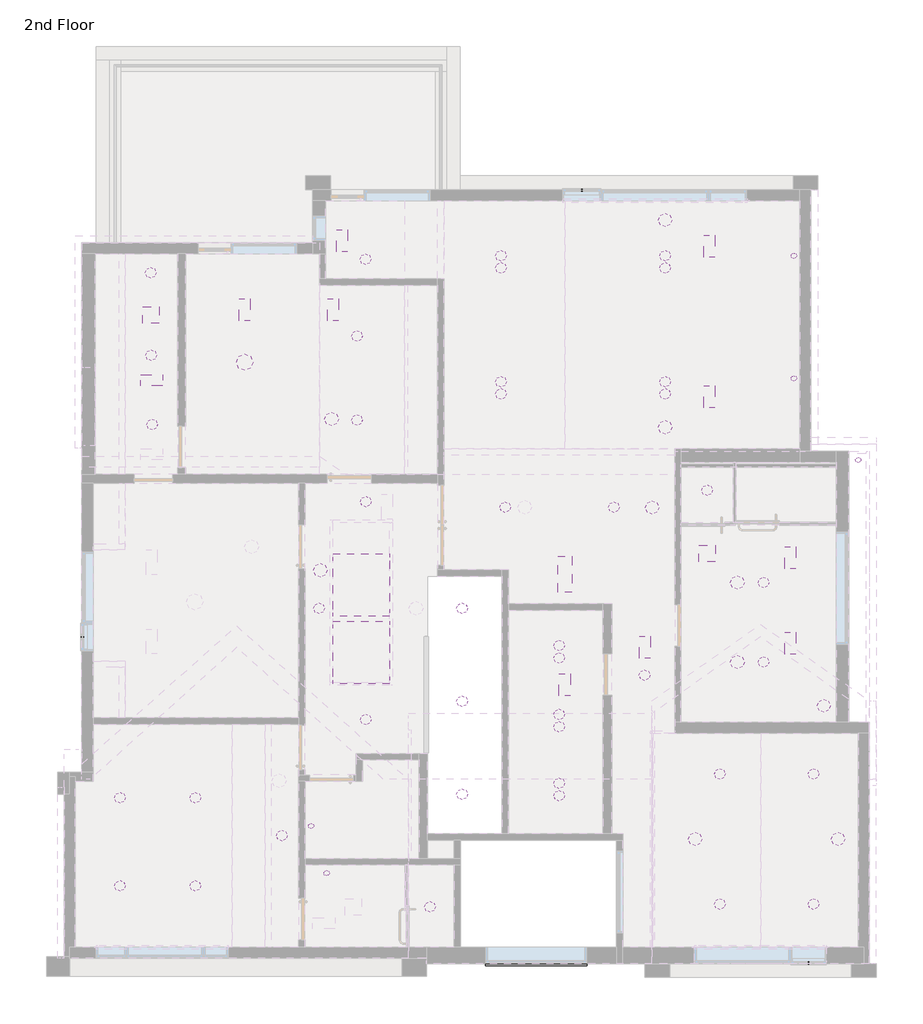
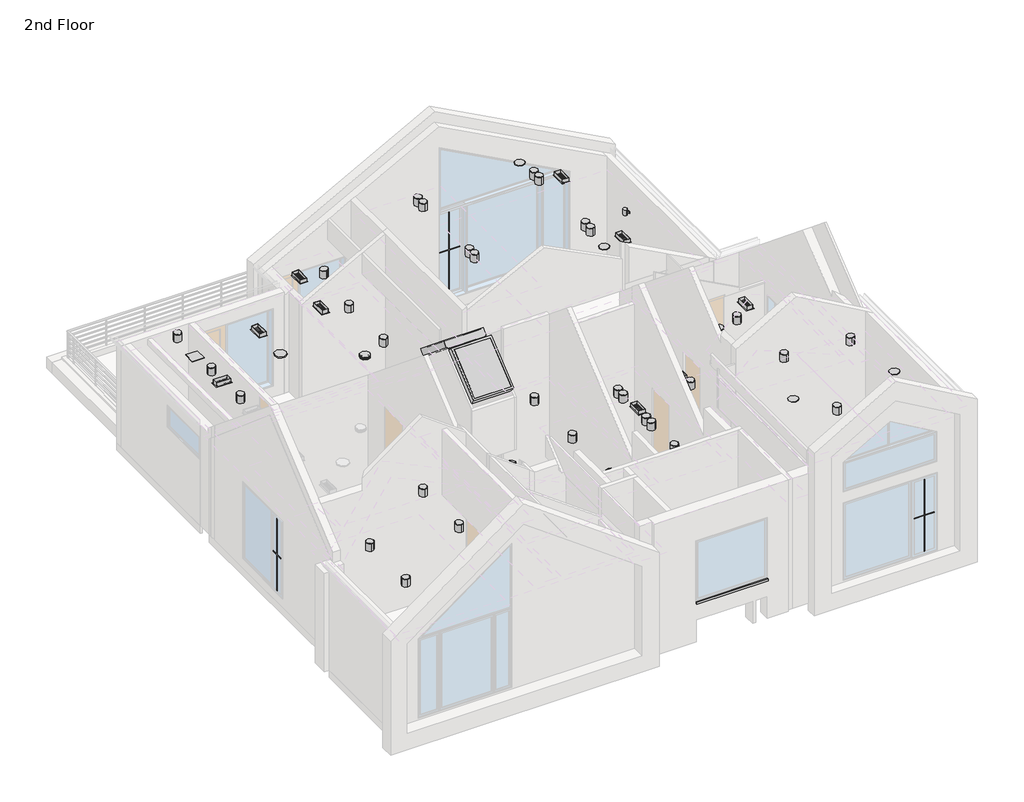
# One storey, part 6 of 6: 47 light fixtures, 30 proxies.
"""IFC4 building model written with IfcOpenShell, lengths in millimetres."""

from ifc_helpers import new_model, si_unit, origin, place, context, project, spatial, transform, mapped, element, save
from components import air_vent_default_1_023386ce, air_vent_default_1_b5cdf8f8, air_vent_default_1_ccd20c14, proxy_8f18e016, default_cac5e5bb, default_1_231b9623, default_1_89aeced2, exhaust_fan_default_1_e91b617f, muntin_pattern_2x2_muntin_pattern_2x2_1d5694cc, muntin_pattern_2x2_muntin_pattern_2x2_40bd0332, muntin_pattern_2x2_muntin_pattern_2x2_99ea1906, security_camera_default_1_4da77557, speaker_default_1_aa482b27, type_1_53af3487, pendant_light_default_1_241a7df5, light_fixture_643521e1, light_fixture_e469d1bf

model = new_model("IFC4")

# Units and contexts
model_context = context("Model", 3, world=origin())
ifc_project = project(units=[si_unit("LENGTHUNIT", "METRE", prefix="MILLI")], contexts=[model_context])

# Site, building, storey
site = spatial("IfcSite", under=ifc_project)
building = spatial("IfcBuilding", under=site)
storey = spatial("IfcBuildingStorey", under=building, Name="2nd Floor", Elevation=3048.0)

# Proxies
placement = place(None, origin())
air_vent_default_1_shape = air_vent_default_1_023386ce(model_context)
element("IfcBuildingElementProxy", 1, Name="Air Vent : Default 1", ObjectType="Air Vent : Default 1", at=placement, inside=storey, context=model_context, shape_type="MappedRepresentation", body=[
    mapped(air_vent_default_1_shape, transform((8817.8517773, 9968.2409405, 3352.8), x_axis=(1.0, 0.0, 0.0), y_axis=(0.0, 1.0, 0.0), z_axis=(0.0, 0.0, 1.0))),
])
element("IfcBuildingElementProxy", 2, Name="Air Vent : Default 1", ObjectType="Air Vent : Default 1", at=placement, inside=storey, context=model_context, shape_type="MappedRepresentation", body=[
    mapped(air_vent_default_1_shape, transform((10532.3517773, 11269.9909405, 3352.8), x_axis=(0.0, 1.0, 0.0), y_axis=(-1.0, 0.0, 0.0), z_axis=(0.0, 0.0, 1.0))),
])
element("IfcBuildingElementProxy", 3, Name="Air Vent : Default 1", ObjectType="Air Vent : Default 1", at=placement, inside=storey, context=model_context, shape_type="MappedRepresentation", body=[
    mapped(air_vent_default_1_shape, transform((12160.556418, 11269.9909405, 3421.2884041), x_axis=(0.0, -1.0, 0.0), y_axis=(1.0, 0.0, 0.0), z_axis=(0.0, 0.0, 1.0))),
])
element("IfcBuildingElementProxy", 4, Name="Air Vent : Default 1", ObjectType="Air Vent : Default 1", at=placement, inside=storey, context=model_context, shape_type="MappedRepresentation", body=[
    mapped(air_vent_default_1_shape, transform((12328.4753535, 12539.9909405, 3442.8401275), x_axis=(0.0, -1.0, 0.0), y_axis=(1.0, 0.0, 0.0), z_axis=(0.0, 0.0, 1.0))),
])
element("IfcBuildingElementProxy", 5, Name="Air Vent : Default 1", ObjectType="Air Vent : Default 1", at=placement, inside=storey, context=model_context, shape_type="MappedRepresentation", body=[
    mapped(air_vent_default_1_shape, transform((19111.0947891, 12438.3909405, 3901.1422662), x_axis=(0.0, 1.0, 0.0), y_axis=(-1.0, 0.0, 0.0), z_axis=(0.0, 0.0, 1.0))),
])
air_vent_default_1_2_shape = air_vent_default_1_b5cdf8f8(model_context)
element("IfcBuildingElementProxy", 6, Name="Air Vent : Default 1", ObjectType="Air Vent : Default 1", at=placement, inside=storey, context=model_context, shape_type="MappedRepresentation", body=[
    mapped(air_vent_default_1_2_shape, transform((19111.0947891, 9663.4409405, 3901.1422662), x_axis=(0.0, -1.0, 0.0), y_axis=(1.0, 0.0, 0.0), z_axis=(0.0, 0.0, 1.0))),
])
element("IfcBuildingElementProxy", 7, Name="Air Vent : Default 1", ObjectType="Air Vent : Default 1", at=placement, inside=storey, context=model_context, shape_type="MappedRepresentation", body=[
    mapped(air_vent_default_1_2_shape, transform((20603.4517773, 6691.6409405, 3352.8), x_axis=(0.0, -1.0, 0.0), y_axis=(1.0, 0.0, 0.0), z_axis=(0.0, 0.0, 1.0))),
])
element("IfcBuildingElementProxy", 8, Name="Air Vent : Default 1", ObjectType="Air Vent : Default 1", at=placement, inside=storey, context=model_context, shape_type="MappedRepresentation", body=[
    mapped(air_vent_default_1_2_shape, transform((20603.4517773, 5116.8409405, 3352.8), x_axis=(0.0, -1.0, 0.0), y_axis=(1.0, 0.0, 0.0), z_axis=(0.0, 0.0, 1.0))),
])
element("IfcBuildingElementProxy", 9, Name="Air Vent : Default 1", ObjectType="Air Vent : Default 1", at=placement, inside=storey, context=model_context, shape_type="MappedRepresentation", body=[
    mapped(air_vent_default_1_2_shape, transform((16437.8517773, 4348.4909405, 3352.8), x_axis=(0.0, -1.0, 0.0), y_axis=(1.0, 0.0, 0.0), z_axis=(0.0, 0.0, 1.0))),
])
element("IfcBuildingElementProxy", 10, Name="Air Vent : Default 1", ObjectType="Air Vent : Default 1", at=placement, inside=storey, context=model_context, shape_type="MappedRepresentation", body=[
    mapped(air_vent_default_1_2_shape, transform((17917.3049773, 5039.4775854, 3352.8), x_axis=(0.0, -1.0, 0.0), y_axis=(1.0, 0.0, 0.0), z_axis=(0.0, 0.0, 1.0))),
])
air_vent_default_1_3_shape = air_vent_default_1_ccd20c14(model_context)
element("IfcBuildingElementProxy", 11, Name="Air Vent : Default 1", ObjectType="Air Vent : Default 1", at=placement, inside=storey, context=model_context, shape_type="MappedRepresentation", body=[
    mapped(air_vent_default_1_3_shape, transform((16444.2017773, 6386.8409405, 3352.8), x_axis=(0.0, 1.0, 0.0), y_axis=(-1.0, 0.0, 0.0), z_axis=(0.0, 0.0, 1.0))),
])
proxy_shape = proxy_8f18e016(model_context)
element("IfcBuildingElementProxy", 12, Name="Ceiling Mounted Light : 2'-0\"", ObjectType="Ceiling Mounted Light : 2'-0\"", at=placement, inside=storey, context=model_context, shape_type="MappedRepresentation", body=[
    mapped(proxy_shape, transform((10532.3517773, 10298.4409405, 3352.8), x_axis=(1.0, 0.0, 0.0), y_axis=(0.0, 1.0, 0.0), z_axis=(0.0, 0.0, 1.0))),
])
default_shape = default_cac5e5bb(model_context)
element("IfcBuildingElementProxy", 13, Name="Smoke & Carbon Monoxide Detector - Floor : Default", ObjectType="Smoke & Carbon Monoxide Detector - Floor : Default", at=placement, inside=storey, context=model_context, shape_type="MappedRepresentation", body=[
    mapped(default_shape, transform((18050.7517773, 7625.0909405, 3048.0), x_axis=(1.0, 0.0, 0.0), y_axis=(0.0, 1.0, 0.0), z_axis=(0.0, 0.0, 1.0))),
])
element("IfcBuildingElementProxy", 14, Name="Smoke & Carbon Monoxide Detector - Floor : Default", ObjectType="Smoke & Carbon Monoxide Detector - Floor : Default", at=placement, inside=storey, context=model_context, shape_type="MappedRepresentation", body=[
    mapped(default_shape, transform((11928.6979371, 6469.3909405, 3048.0), x_axis=(1.0, 0.0, 0.0), y_axis=(0.0, 1.0, 0.0), z_axis=(0.0, 0.0, 1.0))),
])
default_1_shape = default_1_231b9623(model_context)
element("IfcBuildingElementProxy", 15, Name="Smoke & Carbon Monoxide Detector : Default 1", ObjectType="Smoke & Carbon Monoxide Detector : Default 1", at=placement, inside=storey, context=model_context, shape_type="MappedRepresentation", body=[
    mapped(default_1_shape, transform((12135.7638731, 9250.6909405, 3414.5059313), x_axis=(0.0, 1.0, 0.0), y_axis=(-1.0, 0.0, 0.0), z_axis=(0.0, 0.0, 1.0))),
])
default_1_2_shape = default_1_89aeced2(model_context)
element("IfcBuildingElementProxy", 16, Name="Skylite : Default 1", ObjectType="Skylite : Default 1", at=placement, inside=storey, context=model_context, shape_type="MappedRepresentation", body=[
    mapped(default_1_2_shape, transform((12683.4979371, 7529.0684926, 4699.5826726), x_axis=(-0.9999999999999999, 0.0, 0.0), y_axis=(0.0, -0.7729507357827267, -0.6344660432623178), z_axis=(0.0, -0.6344660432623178, 0.7729507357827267))),
])
element("IfcBuildingElementProxy", 17, Name="Skylite : Default 1", ObjectType="Skylite : Default 1", at=placement, inside=storey, context=model_context, shape_type="MappedRepresentation", body=[
    mapped(default_1_2_shape, transform((12683.4979371, 3603.3155659, 4698.6785239), x_axis=(1.0, 0.0, 0.0), y_axis=(0.0, 0.7731182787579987, -0.6342618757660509), z_axis=(0.0, 0.6342618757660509, 0.7731182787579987))),
])
exhaust_fan_default_1_shape = exhaust_fan_default_1_e91b617f(model_context)
element("IfcBuildingElementProxy", 18, Name="Exhaust Fan : Default 1", ObjectType="Exhaust Fan : Default 1", at=placement, inside=storey, context=model_context, shape_type="MappedRepresentation", body=[
    mapped(exhaust_fan_default_1_shape, transform((8805.1517773, 11168.3909405, 3352.8), x_axis=(1.0, 0.0, 0.0), y_axis=(0.0, 1.0, 0.0), z_axis=(0.0, 0.0, 1.0))),
])
element("IfcBuildingElementProxy", 19, Name="Exhaust Fan : Default 1", ObjectType="Exhaust Fan : Default 1", at=placement, inside=storey, context=model_context, shape_type="MappedRepresentation", body=[
    mapped(exhaust_fan_default_1_shape, transform((19066.7517773, 6767.8409405, 3352.8), x_axis=(1.0, 0.0, 0.0), y_axis=(0.0, 1.0, 0.0), z_axis=(0.0, 0.0, 1.0))),
])
muntin_pattern_2x2_muntin_pattern_2x2_shape = muntin_pattern_2x2_muntin_pattern_2x2_1d5694cc(model_context)
element("IfcBuildingElementProxy", 20, Name="Muntin Pattern_2x2 : Muntin Pattern_2x2", ObjectType="Muntin Pattern_2x2 : Muntin Pattern_2x2", at=placement, inside=storey, context=model_context, shape_type="MappedRepresentation", body=[
    mapped(muntin_pattern_2x2_muntin_pattern_2x2_shape, transform((7538.2299773, 5231.1409405, 3371.85), x_axis=(0.0, -1.0, 0.0), y_axis=(1.0, 0.0, 0.0), z_axis=(0.0, 0.0, 1.0))),
])
muntin_pattern_2x2_muntin_pattern_2x2_2_shape = muntin_pattern_2x2_muntin_pattern_2x2_40bd0332(model_context)
element("IfcBuildingElementProxy", 21, Name="Muntin Pattern_2x2 : Muntin Pattern_2x2", ObjectType="Muntin Pattern_2x2 : Muntin Pattern_2x2", at=placement, inside=storey, context=model_context, shape_type="MappedRepresentation", body=[
    mapped(muntin_pattern_2x2_muntin_pattern_2x2_2_shape, transform((16755.3517773, 13470.2659405, 3422.65), x_axis=(-1.0, 0.0, 0.0), y_axis=(0.0, -1.0, 0.0), z_axis=(0.0, 0.0, 1.0))),
])
muntin_pattern_2x2_muntin_pattern_2x2_3_shape = muntin_pattern_2x2_muntin_pattern_2x2_99ea1906(model_context)
element("IfcBuildingElementProxy", 22, Name="Muntin Pattern_2x2 : Muntin Pattern_2x2", ObjectType="Muntin Pattern_2x2 : Muntin Pattern_2x2", at=placement, inside=storey, context=model_context, shape_type="MappedRepresentation", body=[
    mapped(muntin_pattern_2x2_muntin_pattern_2x2_3_shape, transform((20940.0017773, -785.4840595, 3422.65), x_axis=(1.0, 0.0, 0.0), y_axis=(0.0, 1.0, 0.0), z_axis=(0.0, 0.0, 1.0))),
])
security_camera_default_1_shape = security_camera_default_1_4da77557(model_context)
element("IfcBuildingElementProxy", 23, Name="Security Camera : Default 1", ObjectType="Security Camera : Default 1", at=placement, inside=storey, context=model_context, shape_type="MappedRepresentation", body=[
    mapped(security_camera_default_1_shape, transform((22311.5049773, 8241.0409405, 3168.65), x_axis=(0.0, 1.0, 0.0), y_axis=(-1.0, 0.0, 0.0), z_axis=(0.0, 0.0, 1.0))),
])
speaker_default_1_shape = speaker_default_1_aa482b27(model_context)
element("IfcBuildingElementProxy", 24, Name="Speaker : Default 1", ObjectType="Speaker : Default 1", at=placement, inside=storey, context=model_context, shape_type="MappedRepresentation", body=[
    mapped(speaker_default_1_shape, transform((18846.3589753, 1503.6909405, 4522.7764041), x_axis=(0.0, 1.0, 0.0), y_axis=(-1.0, 0.0, 0.0), z_axis=(0.0, 0.0, 1.0))),
])
element("IfcBuildingElementProxy", 25, Name="Speaker : Default 1", ObjectType="Speaker : Default 1", at=placement, inside=storey, context=model_context, shape_type="MappedRepresentation", body=[
    mapped(speaker_default_1_shape, transform((21484.2445794, 1503.6909405, 4354.2045127), x_axis=(0.0, 1.0, 0.0), y_axis=(-1.0, 0.0, 0.0), z_axis=(0.0, 0.0, 1.0))),
])
element("IfcBuildingElementProxy", 26, Name="Speaker : Default 1", ObjectType="Speaker : Default 1", at=placement, inside=storey, context=model_context, shape_type="MappedRepresentation", body=[
    mapped(speaker_default_1_shape, transform((19625.5517773, 4767.5909405, 3352.8), x_axis=(0.0, 1.0, 0.0), y_axis=(-1.0, 0.0, 0.0), z_axis=(0.0, 0.0, 1.0))),
])
element("IfcBuildingElementProxy", 27, Name="Speaker : Default 1", ObjectType="Speaker : Default 1", at=placement, inside=storey, context=model_context, shape_type="MappedRepresentation", body=[
    mapped(speaker_default_1_shape, transform((19625.5517773, 6234.4409405, 3352.8), x_axis=(0.0, 1.0, 0.0), y_axis=(-1.0, 0.0, 0.0), z_axis=(0.0, 0.0, 1.0))),
])
element("IfcBuildingElementProxy", 28, Name="Speaker : Default 1", ObjectType="Speaker : Default 1", at=placement, inside=storey, context=model_context, shape_type="MappedRepresentation", body=[
    mapped(speaker_default_1_shape, transform((18291.938198, 9098.2909405, 4319.6044961), x_axis=(0.0, 1.0, 0.0), y_axis=(-1.0, 0.0, 0.0), z_axis=(0.0, 0.0, 1.0))),
])
element("IfcBuildingElementProxy", 29, Name="Speaker : Default 1", ObjectType="Speaker : Default 1", at=placement, inside=storey, context=model_context, shape_type="MappedRepresentation", body=[
    mapped(speaker_default_1_shape, transform((18291.938198, 12920.9909405, 4319.6044961), x_axis=(0.0, 1.0, 0.0), y_axis=(-1.0, 0.0, 0.0), z_axis=(0.0, 0.0, 1.0))),
])
type_1_shape = type_1_53af3487(model_context)
element("IfcBuildingElementProxy", 30, Name="Window Header_Lentil : Type 1", ObjectType="Window Header_Lentil : Type 1", at=placement, inside=storey, context=model_context, shape_type="MappedRepresentation", body=[
    mapped(type_1_shape, transform((16035.8017773, -442.6090595, 1814.0), x_axis=(-1.0, 0.0, 0.0), y_axis=(0.0, -1.0, 0.0), z_axis=(0.0, 0.0, 1.0))),
])

# Light fixtures
pendant_light_default_1_shape = pendant_light_default_1_241a7df5(model_context)
element("IfcLightFixture", 31, ObjectType="Pendant Light : Default 1", at=placement, inside=storey, context=model_context, shape_type="MappedRepresentation", body=[
    mapped(pendant_light_default_1_shape, transform((21219.4017773, 3961.1409405, 3352.8), x_axis=(1.0, 0.0, 0.0), y_axis=(0.0, 1.0, 0.0), z_axis=(0.0, 0.0, 1.0))),
])
light_fixture_shape = light_fixture_643521e1(model_context)
element("IfcLightFixture", 32, ObjectType="Recessed Pot Light : 8\"", at=placement, inside=storey, context=model_context, shape_type="MappedRepresentation", body=[
    mapped(light_fixture_shape, transform((8230.2843657, 2265.6909405, 3650.7132748), x_axis=(0.0, 1.0, 0.0), y_axis=(-1.0, 0.0, 0.0), z_axis=(0.0, 0.0, 1.0))),
])
element("IfcLightFixture", 33, ObjectType="Recessed Pot Light : 8\"", at=placement, inside=storey, context=model_context, shape_type="MappedRepresentation", body=[
    mapped(light_fixture_shape, transform((9621.6166892, 2265.6909405, 4670.8803422), x_axis=(0.0, 1.0, 0.0), y_axis=(-1.0, 0.0, 0.0), z_axis=(0.0, 0.0, 1.0))),
])
element("IfcLightFixture", 34, ObjectType="Recessed Pot Light : 8\"", at=placement, inside=storey, context=model_context, shape_type="MappedRepresentation", body=[
    mapped(light_fixture_shape, transform((8230.2843657, 640.0909405, 3650.7132748), x_axis=(0.0, 1.0, 0.0), y_axis=(-1.0, 0.0, 0.0), z_axis=(0.0, 0.0, 1.0))),
])
element("IfcLightFixture", 35, ObjectType="Recessed Pot Light : 8\"", at=placement, inside=storey, context=model_context, shape_type="MappedRepresentation", body=[
    mapped(light_fixture_shape, transform((9621.6166892, 640.0909405, 4670.8803422), x_axis=(0.0, 1.0, 0.0), y_axis=(-1.0, 0.0, 0.0), z_axis=(0.0, 0.0, 1.0))),
])
element("IfcLightFixture", 36, ObjectType="Recessed Pot Light : 8\"", at=placement, inside=storey, context=model_context, shape_type="MappedRepresentation", body=[
    mapped(light_fixture_shape, transform((11218.1517773, 1567.1909405, 3352.8), x_axis=(1.0, 0.0, 0.0), y_axis=(0.0, 1.0, 0.0), z_axis=(0.0, 0.0, 1.0))),
])
element("IfcLightFixture", 37, ObjectType="Recessed Pot Light : 8\"", at=placement, inside=storey, context=model_context, shape_type="MappedRepresentation", body=[
    mapped(light_fixture_shape, transform((13953.8080273, 252.7409405, 3048.0), x_axis=(1.0, 0.0, 0.0), y_axis=(0.0, 1.0, 0.0), z_axis=(0.0, 0.0, 1.0))),
])
element("IfcLightFixture", 38, ObjectType="Recessed Pot Light : 8\"", at=placement, inside=storey, context=model_context, shape_type="MappedRepresentation", body=[
    mapped(light_fixture_shape, transform((8824.2017773, 9149.0909405, 3352.8), x_axis=(1.0, 0.0, 0.0), y_axis=(0.0, 1.0, 0.0), z_axis=(0.0, 0.0, 1.0))),
])
element("IfcLightFixture", 39, ObjectType="Recessed Pot Light : 8\"", at=placement, inside=storey, context=model_context, shape_type="MappedRepresentation", body=[
    mapped(light_fixture_shape, transform((8805.1517773, 10425.4409405, 3352.8), x_axis=(1.0, 0.0, 0.0), y_axis=(0.0, 1.0, 0.0), z_axis=(0.0, 0.0, 1.0))),
])
element("IfcLightFixture", 40, ObjectType="Recessed Pot Light : 8\"", at=placement, inside=storey, context=model_context, shape_type="MappedRepresentation", body=[
    mapped(light_fixture_shape, transform((8798.8017773, 11949.4409405, 3352.8), x_axis=(1.0, 0.0, 0.0), y_axis=(0.0, 1.0, 0.0), z_axis=(0.0, 0.0, 1.0))),
])
element("IfcLightFixture", 41, ObjectType="Recessed Pot Light : 8\"", at=placement, inside=storey, context=model_context, shape_type="MappedRepresentation", body=[
    mapped(light_fixture_shape, transform((12605.90485, 10781.0409405, 3543.1219484), x_axis=(0.0, 1.0, 0.0), y_axis=(-1.0, 0.0, 0.0), z_axis=(0.0, 0.0, 1.0))),
])
element("IfcLightFixture", 42, ObjectType="Recessed Pot Light : 8\"", at=placement, inside=storey, context=model_context, shape_type="MappedRepresentation", body=[
    mapped(light_fixture_shape, transform((12605.90485, 9231.6409405, 3543.1219484), x_axis=(0.0, 1.0, 0.0), y_axis=(-1.0, 0.0, 0.0), z_axis=(0.0, 0.0, 1.0))),
])
element("IfcLightFixture", 43, ObjectType="Recessed Pot Light : 8\"", at=placement, inside=storey, context=model_context, shape_type="MappedRepresentation", body=[
    mapped(light_fixture_shape, transform((12763.1008039, 12197.0909405, 3571.5820511), x_axis=(0.0, 1.0, 0.0), y_axis=(-1.0, 0.0, 0.0), z_axis=(0.0, 0.0, 1.0))),
])
element("IfcLightFixture", 44, ObjectType="Recessed Pot Light : 8\"", at=placement, inside=storey, context=model_context, shape_type="MappedRepresentation", body=[
    mapped(light_fixture_shape, transform((15263.3150742, 12260.5909405, 4652.0487786), x_axis=(0.0, 1.0, 0.0), y_axis=(-1.0, 0.0, 0.0), z_axis=(0.0, 0.0, 1.0))),
])
element("IfcLightFixture", 45, ObjectType="Recessed Pot Light : 8\"", at=placement, inside=storey, context=model_context, shape_type="MappedRepresentation", body=[
    mapped(light_fixture_shape, transform((18291.938198, 9714.2409405, 4319.6044961), x_axis=(0.0, -1.0, 0.0), y_axis=(1.0, 0.0, 0.0), z_axis=(0.0, 0.0, 1.0))),
])
element("IfcLightFixture", 46, ObjectType="Recessed Pot Light : 8\"", at=placement, inside=storey, context=model_context, shape_type="MappedRepresentation", body=[
    mapped(light_fixture_shape, transform((20108.1517773, 4767.5909405, 3352.8), x_axis=(1.0, 0.0, 0.0), y_axis=(0.0, 1.0, 0.0), z_axis=(0.0, 0.0, 1.0))),
])
element("IfcLightFixture", 47, ObjectType="Recessed Pot Light : 8\"", at=placement, inside=storey, context=model_context, shape_type="MappedRepresentation", body=[
    mapped(light_fixture_shape, transform((20108.1517773, 6234.4409405, 3352.8), x_axis=(1.0, 0.0, 0.0), y_axis=(0.0, 1.0, 0.0), z_axis=(0.0, 0.0, 1.0))),
])
element("IfcLightFixture", 48, ObjectType="Recessed Pot Light : 8\"", at=placement, inside=storey, context=model_context, shape_type="MappedRepresentation", body=[
    mapped(light_fixture_shape, transform((19066.7517773, 7936.2409405, 3352.8), x_axis=(1.0, 0.0, 0.0), y_axis=(0.0, 1.0, 0.0), z_axis=(0.0, 0.0, 1.0))),
])
element("IfcLightFixture", 49, ObjectType="Recessed Pot Light : 8\"", at=placement, inside=storey, context=model_context, shape_type="MappedRepresentation", body=[
    mapped(light_fixture_shape, transform((19300.142258, 2703.8409405, 4731.4933944), x_axis=(0.0, 1.0, 0.0), y_axis=(-1.0, 0.0, 0.0), z_axis=(0.0, 0.0, 1.0))),
])
element("IfcLightFixture", 50, ObjectType="Recessed Pot Light : 8\"", at=placement, inside=storey, context=model_context, shape_type="MappedRepresentation", body=[
    mapped(light_fixture_shape, transform((21030.4612967, 303.5409405, 4585.4186438), x_axis=(0.0, -1.0, 0.0), y_axis=(1.0, 0.0, 0.0), z_axis=(0.0, 0.0, 1.0))),
])
element("IfcLightFixture", 51, ObjectType="Recessed Pot Light : 8\"", at=placement, inside=storey, context=model_context, shape_type="MappedRepresentation", body=[
    mapped(light_fixture_shape, transform((16336.2517773, 5072.3909405, 3352.8), x_axis=(1.0, 0.0, 0.0), y_axis=(0.0, 1.0, 0.0), z_axis=(0.0, 0.0, 1.0))),
])
element("IfcLightFixture", 52, ObjectType="Recessed Pot Light : 8\"", at=placement, inside=storey, context=model_context, shape_type="MappedRepresentation", body=[
    mapped(light_fixture_shape, transform((16336.2517773, 4843.7909405, 3352.8), x_axis=(1.0, 0.0, 0.0), y_axis=(0.0, 1.0, 0.0), z_axis=(0.0, 0.0, 1.0))),
])
element("IfcLightFixture", 53, ObjectType="Recessed Pot Light : 8\"", at=placement, inside=storey, context=model_context, shape_type="MappedRepresentation", body=[
    mapped(light_fixture_shape, transform((16336.2517773, 3802.3909405, 3352.8), x_axis=(1.0, 0.0, 0.0), y_axis=(0.0, 1.0, 0.0), z_axis=(0.0, 0.0, 1.0))),
])
element("IfcLightFixture", 54, ObjectType="Recessed Pot Light : 8\"", at=placement, inside=storey, context=model_context, shape_type="MappedRepresentation", body=[
    mapped(light_fixture_shape, transform((16336.2517773, 3573.7909405, 3352.8), x_axis=(1.0, 0.0, 0.0), y_axis=(0.0, 1.0, 0.0), z_axis=(0.0, 0.0, 1.0))),
])
element("IfcLightFixture", 55, ObjectType="Recessed Pot Light : 8\"", at=placement, inside=storey, context=model_context, shape_type="MappedRepresentation", body=[
    mapped(light_fixture_shape, transform((16336.2517773, 2532.3909405, 3352.8), x_axis=(1.0, 0.0, 0.0), y_axis=(0.0, 1.0, 0.0), z_axis=(0.0, 0.0, 1.0))),
])
element("IfcLightFixture", 56, ObjectType="Recessed Pot Light : 8\"", at=placement, inside=storey, context=model_context, shape_type="MappedRepresentation", body=[
    mapped(light_fixture_shape, transform((16336.2517773, 2303.7909405, 3352.8), x_axis=(1.0, 0.0, 0.0), y_axis=(0.0, 1.0, 0.0), z_axis=(0.0, 0.0, 1.0))),
])
element("IfcLightFixture", 57, ObjectType="Recessed Pot Light : 8\"", at=placement, inside=storey, context=model_context, shape_type="MappedRepresentation", body=[
    mapped(light_fixture_shape, transform((12767.5517773, 7726.6909405, 3352.8), x_axis=(1.0, 0.0, 0.0), y_axis=(0.0, 1.0, 0.0), z_axis=(0.0, 0.0, 1.0))),
])
element("IfcLightFixture", 58, ObjectType="Recessed Pot Light : 8\"", at=placement, inside=storey, context=model_context, shape_type="MappedRepresentation", body=[
    mapped(light_fixture_shape, transform((11903.9517773, 5758.1909405, 3352.8), x_axis=(1.0, 0.0, 0.0), y_axis=(0.0, 1.0, 0.0), z_axis=(0.0, 0.0, 1.0))),
])
element("IfcLightFixture", 59, ObjectType="Recessed Pot Light : 8\"", at=placement, inside=storey, context=model_context, shape_type="MappedRepresentation", body=[
    mapped(light_fixture_shape, transform((12767.5517773, 3707.1409405, 3352.8), x_axis=(1.0, 0.0, 0.0), y_axis=(0.0, 1.0, 0.0), z_axis=(0.0, 0.0, 1.0))),
])
element("IfcLightFixture", 60, ObjectType="Recessed Pot Light : 8\"", at=placement, inside=storey, context=model_context, shape_type="MappedRepresentation", body=[
    mapped(light_fixture_shape, transform((14545.5517773, 5758.1909405, 3352.8), x_axis=(1.0, 0.0, 0.0), y_axis=(0.0, 1.0, 0.0), z_axis=(0.0, 0.0, 1.0))),
])
element("IfcLightFixture", 61, ObjectType="Recessed Pot Light : 8\"", at=placement, inside=storey, context=model_context, shape_type="MappedRepresentation", body=[
    mapped(light_fixture_shape, transform((14545.5517773, 4043.6909405, 3352.8), x_axis=(1.0, 0.0, 0.0), y_axis=(0.0, 1.0, 0.0), z_axis=(0.0, 0.0, 1.0))),
])
element("IfcLightFixture", 62, ObjectType="Recessed Pot Light : 8\"", at=placement, inside=storey, context=model_context, shape_type="MappedRepresentation", body=[
    mapped(light_fixture_shape, transform((15339.3017773, 7625.0909405, 3352.8), x_axis=(1.0, 0.0, 0.0), y_axis=(0.0, 1.0, 0.0), z_axis=(0.0, 0.0, 1.0))),
])
element("IfcLightFixture", 63, ObjectType="Recessed Pot Light : 8\"", at=placement, inside=storey, context=model_context, shape_type="MappedRepresentation", body=[
    mapped(light_fixture_shape, transform((17911.0517773, 4526.2909405, 3352.8), x_axis=(1.0, 0.0, 0.0), y_axis=(0.0, 1.0, 0.0), z_axis=(0.0, 0.0, 1.0))),
])
element("IfcLightFixture", 64, ObjectType="Recessed Pot Light : 8\"", at=placement, inside=storey, context=model_context, shape_type="MappedRepresentation", body=[
    mapped(light_fixture_shape, transform((18291.938198, 9936.4909405, 4319.6044961), x_axis=(0.0, -1.0, 0.0), y_axis=(1.0, 0.0, 0.0), z_axis=(0.0, 0.0, 1.0))),
])
element("IfcLightFixture", 65, ObjectType="Recessed Pot Light : 8\"", at=placement, inside=storey, context=model_context, shape_type="MappedRepresentation", body=[
    mapped(light_fixture_shape, transform((15263.3150742, 12038.3409405, 4652.0487786), x_axis=(0.0, 1.0, 0.0), y_axis=(-1.0, 0.0, 0.0), z_axis=(0.0, 0.0, 1.0))),
])
element("IfcLightFixture", 66, ObjectType="Recessed Pot Light : 8\"", at=placement, inside=storey, context=model_context, shape_type="MappedRepresentation", body=[
    mapped(light_fixture_shape, transform((15263.3150742, 9714.2409405, 4652.0487786), x_axis=(0.0, -1.0, 0.0), y_axis=(1.0, 0.0, 0.0), z_axis=(0.0, 0.0, 1.0))),
])
element("IfcLightFixture", 67, ObjectType="Recessed Pot Light : 8\"", at=placement, inside=storey, context=model_context, shape_type="MappedRepresentation", body=[
    mapped(light_fixture_shape, transform((18291.938198, 12260.5909405, 4319.6044961), x_axis=(0.0, 1.0, 0.0), y_axis=(-1.0, 0.0, 0.0), z_axis=(0.0, 0.0, 1.0))),
])
element("IfcLightFixture", 68, ObjectType="Recessed Pot Light : 8\"", at=placement, inside=storey, context=model_context, shape_type="MappedRepresentation", body=[
    mapped(light_fixture_shape, transform((19300.142258, 303.5409405, 4731.4933944), x_axis=(0.0, -1.0, 0.0), y_axis=(1.0, 0.0, 0.0), z_axis=(0.0, 0.0, 1.0))),
])
element("IfcLightFixture", 69, ObjectType="Recessed Pot Light : 8\"", at=placement, inside=storey, context=model_context, shape_type="MappedRepresentation", body=[
    mapped(light_fixture_shape, transform((21030.4612967, 2703.8409405, 4585.4186438), x_axis=(0.0, 1.0, 0.0), y_axis=(-1.0, 0.0, 0.0), z_axis=(0.0, 0.0, 1.0))),
])
element("IfcLightFixture", 70, ObjectType="Recessed Pot Light : 8\"", at=placement, inside=storey, context=model_context, shape_type="MappedRepresentation", body=[
    mapped(light_fixture_shape, transform((14545.5517773, 2329.1909405, 3352.8), x_axis=(1.0, 0.0, 0.0), y_axis=(0.0, 1.0, 0.0), z_axis=(0.0, 0.0, 1.0))),
])
element("IfcLightFixture", 71, ObjectType="Recessed Pot Light : 8\"", at=placement, inside=storey, context=model_context, shape_type="MappedRepresentation", body=[
    mapped(light_fixture_shape, transform((17345.9017773, 7625.0909405, 3352.8), x_axis=(-1.0, 0.0, 0.0), y_axis=(0.0, -1.0, 0.0), z_axis=(0.0, 0.0, 1.0))),
])
element("IfcLightFixture", 72, ObjectType="Recessed Pot Light : 8\"", at=placement, inside=storey, context=model_context, shape_type="MappedRepresentation", body=[
    mapped(light_fixture_shape, transform((18291.938198, 12038.3409405, 4319.6044961), x_axis=(0.0, 1.0, 0.0), y_axis=(-1.0, 0.0, 0.0), z_axis=(0.0, 0.0, 1.0))),
])
element("IfcLightFixture", 73, ObjectType="Recessed Pot Light : 8\"", at=placement, inside=storey, context=model_context, shape_type="MappedRepresentation", body=[
    mapped(light_fixture_shape, transform((15263.3150742, 9936.4909405, 4652.0487786), x_axis=(0.0, -1.0, 0.0), y_axis=(1.0, 0.0, 0.0), z_axis=(0.0, 0.0, 1.0))),
])
light_fixture_2_shape = light_fixture_e469d1bf(model_context)
element("IfcLightFixture", 74, ObjectType="Wall Mounted Light : 4\"", at=placement, inside=storey, context=model_context, shape_type="MappedRepresentation", body=[
    mapped(light_fixture_2_shape, transform((12043.6517773, 982.9909405, 3352.8), x_axis=(-1.0, 0.0, 0.0), y_axis=(0.0, -1.0, 0.0), z_axis=(0.0, 0.0, 1.0))),
])
element("IfcLightFixture", 75, ObjectType="Wall Mounted Light : 4\"", at=placement, inside=storey, context=model_context, shape_type="MappedRepresentation", body=[
    mapped(light_fixture_2_shape, transform((20775.2188552, 12260.5909405, 3051.0324396), x_axis=(0.0, 1.0, 0.0), y_axis=(-1.0, 0.0, 0.0), z_axis=(0.0, 0.0, 1.0))),
])
element("IfcLightFixture", 76, ObjectType="Wall Mounted Light : 4\"", at=placement, inside=storey, context=model_context, shape_type="MappedRepresentation", body=[
    mapped(light_fixture_2_shape, transform((20775.2188552, 9999.9909405, 3051.0324396), x_axis=(0.0, 1.0, 0.0), y_axis=(-1.0, 0.0, 0.0), z_axis=(0.0, 0.0, 1.0))),
])
element("IfcLightFixture", 77, ObjectType="Wall Mounted Light : 4\"", at=placement, inside=storey, context=model_context, shape_type="MappedRepresentation", body=[
    mapped(light_fixture_2_shape, transform((11649.9517773, 1744.9909405, 3352.8), x_axis=(0.0, -1.0, 0.0), y_axis=(1.0, 0.0, 0.0), z_axis=(0.0, 0.0, 1.0))),
])

save(model, "model.ifc")
